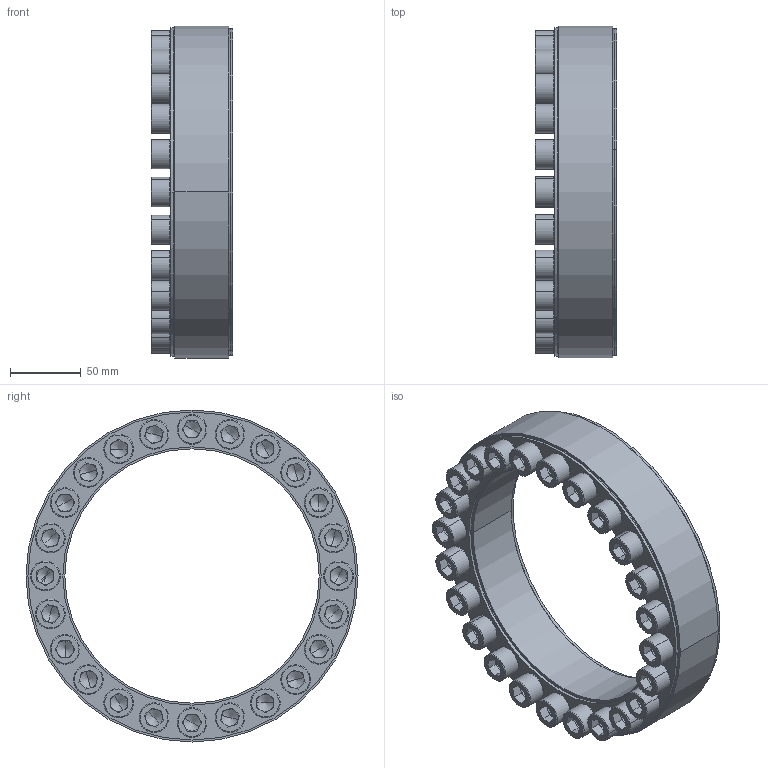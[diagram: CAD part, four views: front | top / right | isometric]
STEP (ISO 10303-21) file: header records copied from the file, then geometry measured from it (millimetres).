
FILE_DESCRIPTION (( 'STEP AP203' ), '1' );
FILE_NAME ('SAPL-D1-180-235.STEP', '2018-12-15T01:26:41', ( '' ), ( '' ), 'SwSTEP 2.0', 'SolidWorks 2015', '' );
FILE_SCHEMA (( 'CONFIG_CONTROL_DESIGN' ));
Length unit declared in the file: millimetre
Products named in the file (1): SAPL-D1-180-235
Bounding box: 58 x 234.98 x 234.98 mm (x, y, z)
Surface area: 194298.2 mm2 (no closed solid volume)
Topology: 0 solids, 52 shells, 619 faces, 1568 edges, 938 vertices
Faces by surface type: plane 301, cylinder 152, torus 96, cone 70
Entity records: 18151 total; most frequent: DIRECTION 3482, CARTESIAN_POINT 3078, ORIENTED_EDGE 2709, EDGE_CURVE 1520, AXIS2_PLACEMENT_3D 1342, VERTEX_POINT 938, VECTOR 798, LINE 798
